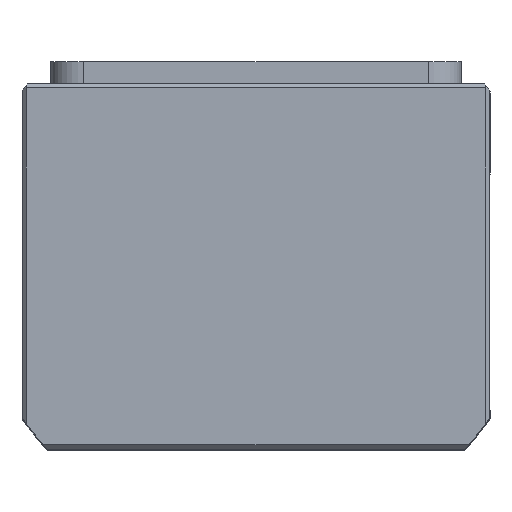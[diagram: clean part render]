
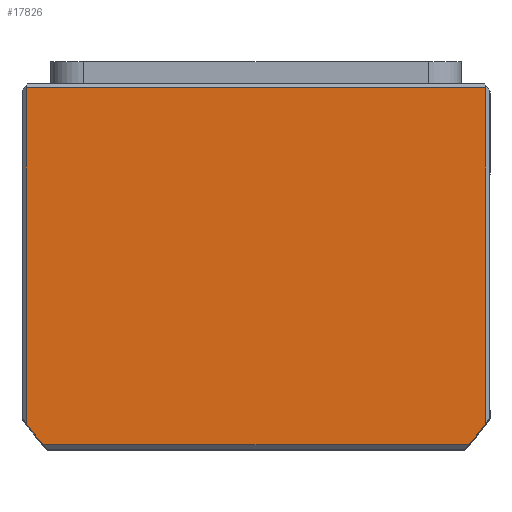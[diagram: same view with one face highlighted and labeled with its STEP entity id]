
A CAD part, top view. The second image highlights one B-rep face of the part: STEP entity #17826.
In plain terms, the highlighted planar face has unit normal (0, 0, 1) as drawn and (0, 0, -1) by its records, which use the part's own axes.
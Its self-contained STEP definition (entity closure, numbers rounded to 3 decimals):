
#500 = PLANE ( 'NONE',  #15136 ) ;
#1634 = VECTOR ( 'NONE', #17250, 1000. ) ;
#2167 = VERTEX_POINT ( 'NONE', #14648 ) ;
#2234 = ORIENTED_EDGE ( 'NONE', *, *, #9095, .F. ) ;
#2643 = DIRECTION ( 'NONE',  ( 0., 0., 1. ) ) ;
#3579 = EDGE_CURVE ( 'NONE', #17436, #16565, #5543, .T. ) ;
#4038 = ORIENTED_EDGE ( 'NONE', *, *, #14170, .T. ) ;
#4976 = ORIENTED_EDGE ( 'NONE', *, *, #17218, .F. ) ;
#5286 = VERTEX_POINT ( 'NONE', #10237 ) ;
#5543 = LINE ( 'NONE', #12833, #1634 ) ;
#6033 = AXIS2_PLACEMENT_3D ( 'NONE', #7821, #18130, #9286 ) ;
#6448 = DIRECTION ( 'NONE',  ( 0., 0., 1. ) ) ;
#6831 = CARTESIAN_POINT ( 'NONE',  ( 56., 0., 0. ) ) ;
#6942 = DIRECTION ( 'NONE',  ( -1., 0., 0. ) ) ;
#7089 = LINE ( 'NONE', #13639, #11487 ) ;
#7601 = EDGE_CURVE ( 'NONE', #2167, #12682, #9758, .T. ) ;
#7821 = CARTESIAN_POINT ( 'NONE',  ( 0., -2.888, 0. ) ) ;
#7844 = DIRECTION ( 'NONE',  ( 1., 0., 0. ) ) ;
#8356 = CIRCLE ( 'NONE', #6033, 69.5 ) ;
#8704 = EDGE_LOOP ( 'NONE', ( #4976, #10727, #4038, #18789, #2234, #9628 ) ) ;
#9095 = EDGE_CURVE ( 'NONE', #10252, #16565, #8356, .T. ) ;
#9286 = DIRECTION ( 'NONE',  ( 1., 0., 0. ) ) ;
#9628 = ORIENTED_EDGE ( 'NONE', *, *, #18621, .T. ) ;
#9758 = LINE ( 'NONE', #6831, #16712 ) ;
#9835 = VECTOR ( 'NONE', #6942, 1000. ) ;
#10237 = CARTESIAN_POINT ( 'NONE',  ( 51.753, 43.5, 0. ) ) ;
#10252 = VERTEX_POINT ( 'NONE', #12816 ) ;
#10727 = ORIENTED_EDGE ( 'NONE', *, *, #7601, .T. ) ;
#11484 = CARTESIAN_POINT ( 'NONE',  ( 0., -2.888, 0. ) ) ;
#11487 = VECTOR ( 'NONE', #7844, 1000. ) ;
#12658 = CARTESIAN_POINT ( 'NONE',  ( -56., 38.273, 0. ) ) ;
#12682 = VERTEX_POINT ( 'NONE', #16359 ) ;
#12816 = CARTESIAN_POINT ( 'NONE',  ( -51.753, 43.5, 0. ) ) ;
#12833 = CARTESIAN_POINT ( 'NONE',  ( -56., 0., 0. ) ) ;
#12975 = DIRECTION ( 'NONE',  ( 1., 0., 0. ) ) ;
#13293 = CARTESIAN_POINT ( 'NONE',  ( -56., -43.5, 0. ) ) ;
#13639 = CARTESIAN_POINT ( 'NONE',  ( 0., 43.5, 0. ) ) ;
#13654 = CARTESIAN_POINT ( 'NONE',  ( 0., -43.5, 0. ) ) ;
#14170 = EDGE_CURVE ( 'NONE', #12682, #17436, #18184, .T. ) ;
#14264 = FACE_OUTER_BOUND ( 'NONE', #8704, .T. ) ;
#14505 = CIRCLE ( 'NONE', #18722, 69.5 ) ;
#14648 = CARTESIAN_POINT ( 'NONE',  ( 56., 38.273, 0. ) ) ;
#15136 = AXIS2_PLACEMENT_3D ( 'NONE', #15294, #6448, #16772 ) ;
#15294 = CARTESIAN_POINT ( 'NONE',  ( 0., 0., 0. ) ) ;
#16359 = CARTESIAN_POINT ( 'NONE',  ( 56., -43.5, 0. ) ) ;
#16565 = VERTEX_POINT ( 'NONE', #12658 ) ;
#16712 = VECTOR ( 'NONE', #17151, 1000. ) ;
#16772 = DIRECTION ( 'NONE',  ( 1., 0., 0. ) ) ;
#17151 = DIRECTION ( 'NONE',  ( 0., -1., 0. ) ) ;
#17218 = EDGE_CURVE ( 'NONE', #2167, #5286, #14505, .T. ) ;
#17250 = DIRECTION ( 'NONE',  ( 0., 1., 0. ) ) ;
#17436 = VERTEX_POINT ( 'NONE', #13293 ) ;
#17826 = ADVANCED_FACE ( 'NONE', ( #14264 ), #500, .F. ) ;
#18130 = DIRECTION ( 'NONE',  ( 0., 0., 1. ) ) ;
#18184 = LINE ( 'NONE', #13654, #9835 ) ;
#18621 = EDGE_CURVE ( 'NONE', #10252, #5286, #7089, .T. ) ;
#18722 = AXIS2_PLACEMENT_3D ( 'NONE', #11484, #2643, #12975 ) ;
#18789 = ORIENTED_EDGE ( 'NONE', *, *, #3579, .T. ) ;
